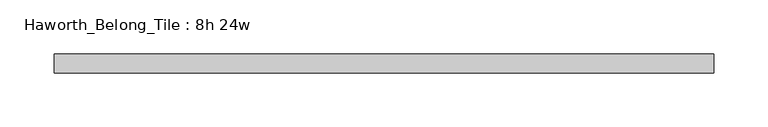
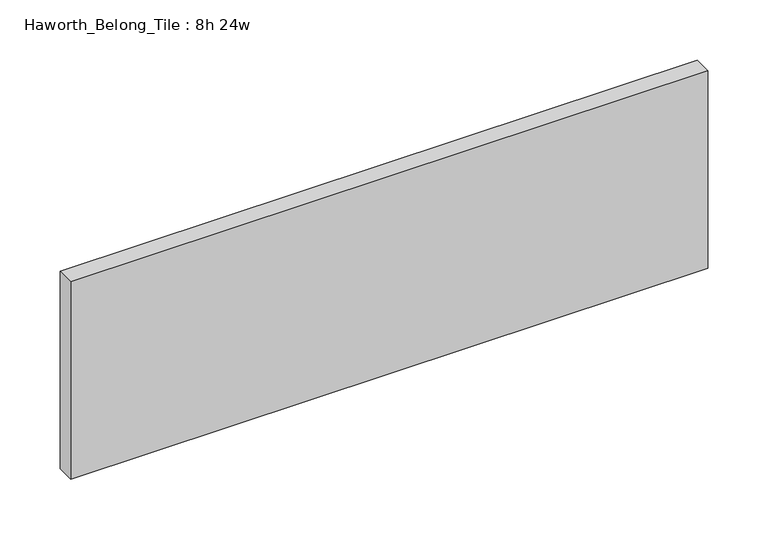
"""IFC4 building model written with IfcOpenShell, lengths in millimetres: furniture geometry, Haworth_Belong_Tile : 8h 24w."""

from ifc_helpers import new_model, si_unit, frame, origin, place, context, project, spatial, polyline, outline, extrude, source, transform, mapped, element, save


def haworth_belong_tile_8h_24w_d500282b(model_context):
    return source(origin(), model_context, "Body", "SweptSolid", [
        extrude(outline(polyline([(304.8, 8.73125), (304.8, -8.73125), (-304.8, -8.73125), (-304.8, 8.73125), (304.8, 8.73125)])), frame((0.0, 0.0, 812.8), z_axis=(0.0, 0.0, 1.0), x_axis=(1.0, 0.0, 0.0)), (0.0, 0.0, 1.0), 200.025),
    ])


if __name__ == "__main__":
    model = new_model("IFC4")
    model_context = context("Model", 3, world=origin())
    ifc_project = project(units=[si_unit("LENGTHUNIT", "METRE", prefix="MILLI")], contexts=[model_context])
    site = spatial("IfcSite", under=ifc_project)
    building = spatial("IfcBuilding", under=site)
    placement = place(None, origin())
    haworth_belong_tile_8h_24w_shape = haworth_belong_tile_8h_24w_d500282b(model_context)
    element("IfcFurniture", 1, ObjectType="Haworth_Belong_Tile : 8h 24w", at=placement, inside=building, context=model_context, shape_type="MappedRepresentation", body=[
        mapped(haworth_belong_tile_8h_24w_shape, transform((0.0, 0.0, 0.0), x_axis=(1.0, 0.0, 0.0), y_axis=(0.0, 1.0, 0.0), z_axis=(0.0, 0.0, 1.0))),
    ])
    save(model, "model.ifc")
